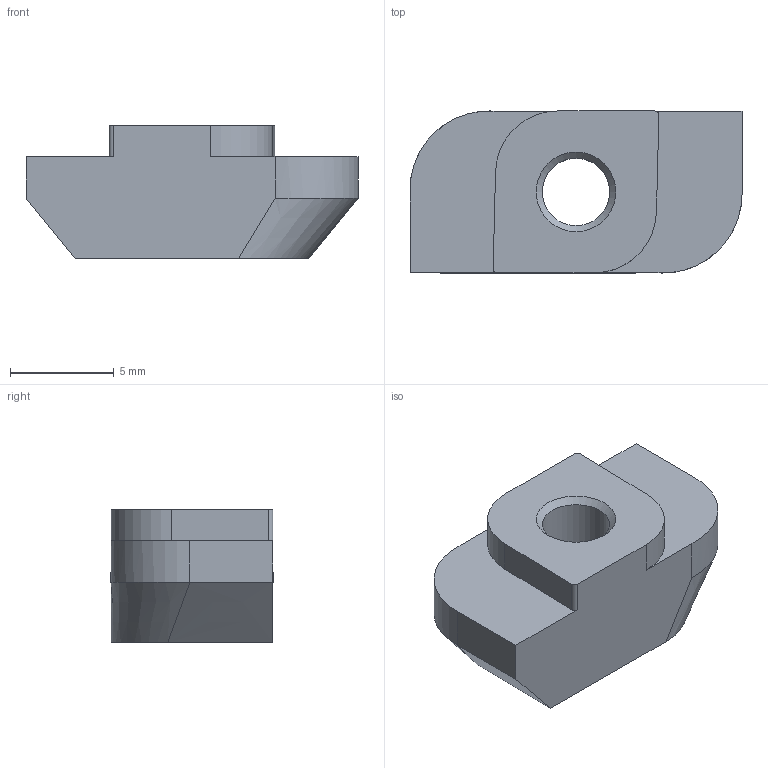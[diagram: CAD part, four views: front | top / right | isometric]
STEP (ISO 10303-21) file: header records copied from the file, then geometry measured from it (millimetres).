
FILE_DESCRIPTION((''),'2;1');
FILE_NAME('E:\catalogue and flyer\Profile catalogue 2015\Accessories JE info\Accessories-JE step file 31MAr16\JE-RN4-8_3030.stp','2016-03-31T16:32:31',('h029'),(''),'Autodesk Inventor 11','Autodesk Inventor 11','');
FILE_SCHEMA(('AUTOMOTIVE_DESIGN { 1 0 10303 214 1 1 1 1 }'));
Length unit declared in the file: millimetre
Products named in the file (1): JE-RN4-8_3030
Bounding box: 16 x 7.81 x 6.4 mm (x, y, z)
Volume: 561.5 mm3; surface area: 506.9 mm2
Topology: 1 solids, 1 shells, 22 faces, 61 edges, 41 vertices
Faces by surface type: plane 10, cylinder 6, bspline 5, cone 1
Entity records: 850 total; most frequent: CARTESIAN_POINT 283, ORIENTED_EDGE 116, DIRECTION 104, EDGE_CURVE 58, VERTEX_POINT 40, AXIS2_PLACEMENT_3D 35, VECTOR 34, LINE 34
